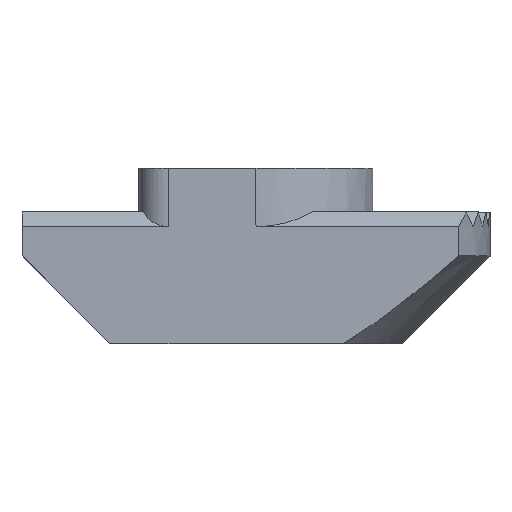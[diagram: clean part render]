
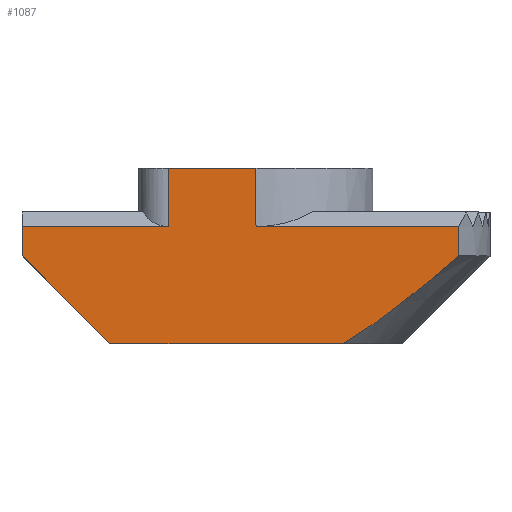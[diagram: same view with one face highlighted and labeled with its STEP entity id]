
A CAD part, top view. The second image highlights one B-rep face of the part: STEP entity #1087.
In plain terms, the highlighted planar face has unit normal (0, 0, 1).
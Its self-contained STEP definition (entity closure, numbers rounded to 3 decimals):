
#71 = CARTESIAN_POINT ( 'NONE',  ( -8., 5., 4. ) ) ;
#86 = EDGE_CURVE ( 'NONE', #3674, #2561, #3865, .T. ) ;
#129 = LINE ( 'NONE', #2030, #1520 ) ;
#141 = ORIENTED_EDGE ( 'NONE', *, *, #2489, .T. ) ;
#148 = CARTESIAN_POINT ( 'NONE',  ( 6.928, 3., 4. ) ) ;
#270 = VECTOR ( 'NONE', #3932, 1000. ) ;
#273 = ORIENTED_EDGE ( 'NONE', *, *, #2480, .T. ) ;
#389 = DIRECTION ( 'NONE',  ( -1., 0., 0. ) ) ;
#410 = CARTESIAN_POINT ( 'NONE',  ( -8., 0., 4. ) ) ;
#438 = VERTEX_POINT ( 'NONE', #801 ) ;
#464 = VECTOR ( 'NONE', #2487, 1000. ) ;
#503 = CARTESIAN_POINT ( 'NONE',  ( 0., 4., 4. ) ) ;
#553 = CARTESIAN_POINT ( 'NONE',  ( 3., 0., 4. ) ) ;
#636 = DIRECTION ( 'NONE',  ( -1., 0., 0. ) ) ;
#656 = CARTESIAN_POINT ( 'NONE',  ( -3., 4., 4. ) ) ;
#677 = CARTESIAN_POINT ( 'NONE',  ( -8., 4., 4. ) ) ;
#728 = CARTESIAN_POINT ( 'NONE',  ( 5.673, 1.929, 4. ) ) ;
#761 = LINE ( 'NONE', #2019, #1962 ) ;
#783 = VERTEX_POINT ( 'NONE', #3211 ) ;
#790 = CARTESIAN_POINT ( 'NONE',  ( 0., 6., 4. ) ) ;
#801 = CARTESIAN_POINT ( 'NONE',  ( 6.928, 4., 4. ) ) ;
#942 = VERTEX_POINT ( 'NONE', #553 ) ;
#981 = LINE ( 'NONE', #71, #1801 ) ;
#1048 = VERTEX_POINT ( 'NONE', #503 ) ;
#1058 = VECTOR ( 'NONE', #636, 1000. ) ;
#1065 = CARTESIAN_POINT ( 'NONE',  ( 3.355, 0.213, 4. ) ) ;
#1087 = ADVANCED_FACE ( 'NONE', ( #4037 ), #2448, .F. ) ;
#1210 = CARTESIAN_POINT ( 'NONE',  ( -8., 5., 4. ) ) ;
#1264 = CARTESIAN_POINT ( 'NONE',  ( -8., 4., 4. ) ) ;
#1520 = VECTOR ( 'NONE', #389, 1000. ) ;
#1537 = VERTEX_POINT ( 'NONE', #1264 ) ;
#1584 = EDGE_CURVE ( 'NONE', #783, #1714, #761, .T. ) ;
#1699 = CARTESIAN_POINT ( 'NONE',  ( -3., 4., 4. ) ) ;
#1714 = VERTEX_POINT ( 'NONE', #2100 ) ;
#1801 = VECTOR ( 'NONE', #3266, 1000. ) ;
#1850 = EDGE_CURVE ( 'NONE', #438, #3032, #2763, .T. ) ;
#1905 = EDGE_CURVE ( 'NONE', #3674, #1048, #3657, .T. ) ;
#1962 = VECTOR ( 'NONE', #2966, 1000. ) ;
#2009 = LINE ( 'NONE', #1699, #270 ) ;
#2019 = CARTESIAN_POINT ( 'NONE',  ( -8., 3., 4. ) ) ;
#2030 = CARTESIAN_POINT ( 'NONE',  ( -8., 4., 4. ) ) ;
#2100 = CARTESIAN_POINT ( 'NONE',  ( -5., 0., 4. ) ) ;
#2157 = B_SPLINE_CURVE_WITH_KNOTS ( 'NONE', 3,
 ( #2638, #1065, #2952, #3591, #2972, #728, #3241, #148 ),
 .UNSPECIFIED., .F., .F.,
 ( 4, 2, 2, 4 ),
 ( 0., 0.001, 0.002, 0.005 ),
 .UNSPECIFIED. ) ;
#2161 = ORIENTED_EDGE ( 'NONE', *, *, #2337, .T. ) ;
#2306 = VECTOR ( 'NONE', #2780, 1000. ) ;
#2337 = EDGE_CURVE ( 'NONE', #3957, #1537, #2584, .T. ) ;
#2448 = PLANE ( 'NONE',  #2834 ) ;
#2451 = EDGE_CURVE ( 'NONE', #942, #3032, #2157, .T. ) ;
#2480 = EDGE_CURVE ( 'NONE', #1714, #942, #3302, .T. ) ;
#2487 = DIRECTION ( 'NONE',  ( 0., -1., 0. ) ) ;
#2489 = EDGE_CURVE ( 'NONE', #438, #1048, #129, .T. ) ;
#2545 = EDGE_CURVE ( 'NONE', #2561, #3957, #2009, .T. ) ;
#2561 = VERTEX_POINT ( 'NONE', #3911 ) ;
#2584 = LINE ( 'NONE', #677, #1058 ) ;
#2638 = CARTESIAN_POINT ( 'NONE',  ( 3., 0., 4. ) ) ;
#2678 = ORIENTED_EDGE ( 'NONE', *, *, #1584, .T. ) ;
#2683 = CARTESIAN_POINT ( 'NONE',  ( -4., 6., 4. ) ) ;
#2763 = LINE ( 'NONE', #4005, #2306 ) ;
#2780 = DIRECTION ( 'NONE',  ( 0., -1., 0. ) ) ;
#2793 = DIRECTION ( 'NONE',  ( -1., 0., 0. ) ) ;
#2834 = AXIS2_PLACEMENT_3D ( 'NONE', #1210, #3711, #2793 ) ;
#2871 = ORIENTED_EDGE ( 'NONE', *, *, #2545, .T. ) ;
#2952 = CARTESIAN_POINT ( 'NONE',  ( 3.698, 0.443, 4. ) ) ;
#2966 = DIRECTION ( 'NONE',  ( 0.707, -0.707, 0. ) ) ;
#2972 = CARTESIAN_POINT ( 'NONE',  ( 4.699, 1.168, 4. ) ) ;
#3032 = VERTEX_POINT ( 'NONE', #3895 ) ;
#3052 = ORIENTED_EDGE ( 'NONE', *, *, #1850, .F. ) ;
#3211 = CARTESIAN_POINT ( 'NONE',  ( -8., 3., 4. ) ) ;
#3241 = CARTESIAN_POINT ( 'NONE',  ( 6.304, 2.46, 4. ) ) ;
#3255 = ORIENTED_EDGE ( 'NONE', *, *, #2451, .T. ) ;
#3266 = DIRECTION ( 'NONE',  ( 0., -1., 0. ) ) ;
#3302 = LINE ( 'NONE', #410, #3761 ) ;
#3431 = VECTOR ( 'NONE', #3631, 1000. ) ;
#3435 = ORIENTED_EDGE ( 'NONE', *, *, #3956, .T. ) ;
#3507 = CARTESIAN_POINT ( 'NONE',  ( 0., 6., 4. ) ) ;
#3525 = EDGE_LOOP ( 'NONE', ( #3435, #2678, #273, #3255, #3052, #141, #3933, #3561, #2871, #2161 ) ) ;
#3561 = ORIENTED_EDGE ( 'NONE', *, *, #86, .T. ) ;
#3591 = CARTESIAN_POINT ( 'NONE',  ( 4.371, 0.92, 4. ) ) ;
#3631 = DIRECTION ( 'NONE',  ( -1., 0., 0. ) ) ;
#3657 = LINE ( 'NONE', #3507, #464 ) ;
#3674 = VERTEX_POINT ( 'NONE', #790 ) ;
#3711 = DIRECTION ( 'NONE',  ( 0., 0., -1. ) ) ;
#3761 = VECTOR ( 'NONE', #3867, 1000. ) ;
#3865 = LINE ( 'NONE', #2683, #3431 ) ;
#3867 = DIRECTION ( 'NONE',  ( 1., 0., 0. ) ) ;
#3895 = CARTESIAN_POINT ( 'NONE',  ( 6.928, 3., 4. ) ) ;
#3911 = CARTESIAN_POINT ( 'NONE',  ( -3., 6., 4. ) ) ;
#3932 = DIRECTION ( 'NONE',  ( 0., -1., 0. ) ) ;
#3933 = ORIENTED_EDGE ( 'NONE', *, *, #1905, .F. ) ;
#3956 = EDGE_CURVE ( 'NONE', #1537, #783, #981, .T. ) ;
#3957 = VERTEX_POINT ( 'NONE', #656 ) ;
#4005 = CARTESIAN_POINT ( 'NONE',  ( 6.928, 5., 4. ) ) ;
#4037 = FACE_OUTER_BOUND ( 'NONE', #3525, .T. ) ;
